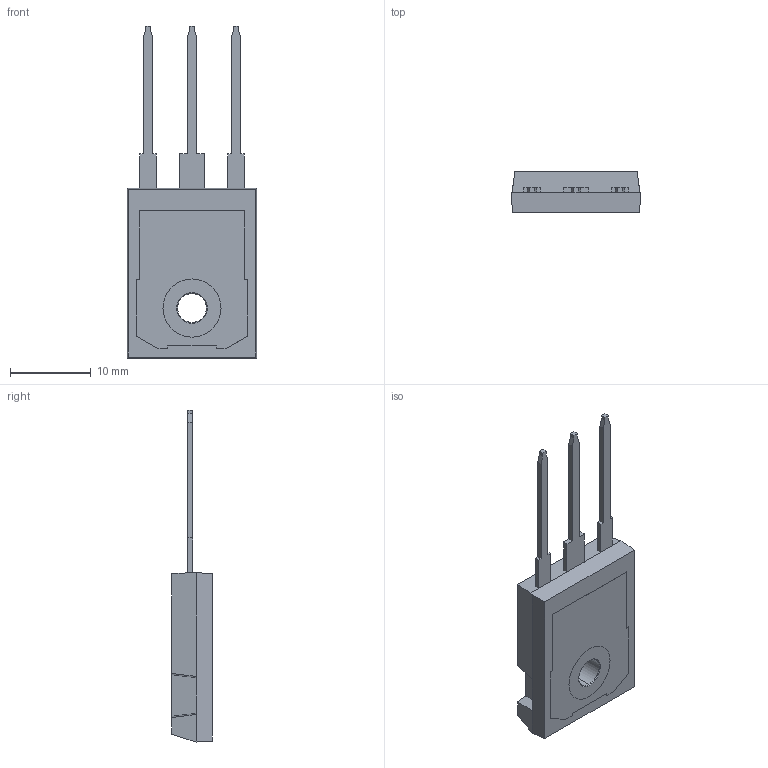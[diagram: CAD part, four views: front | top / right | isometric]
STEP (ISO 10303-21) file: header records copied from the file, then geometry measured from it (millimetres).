
FILE_DESCRIPTION (( 'STEP AP214' ), '1' );
FILE_NAME ('TO-247-3L_D.STEP', '2022-07-25T13:06:44', ( '' ), ( '' ), 'SwSTEP 2.0', 'SolidWorks 2021', '' );
FILE_SCHEMA (( 'AUTOMOTIVE_DESIGN' ));
Length unit declared in the file: millimetre
Products named in the file (3): TO-247-3L_EMC.STEP; TO-247-3L_LF.STEP; TO-247-3L_D
Assembly tree (2 placements, depth 2):
  TO-247-3L_D
    TO-247-3L_LF.STEP
    TO-247-3L_EMC.STEP
Bounding box: 15.94 x 5.02 x 41.02 mm (x, y, z)
Volume: 1588.7 mm3; surface area: 2067.9 mm2
Topology: 4 solids, 4 shells, 127 faces, 346 edges, 226 vertices
Faces by surface type: plane 117, cylinder 8, cone 2
Entity records: 4070 total; most frequent: CARTESIAN_POINT 716, ORIENTED_EDGE 692, DIRECTION 624, EDGE_CURVE 346, VECTOR 324, LINE 324, VERTEX_POINT 226, AXIS2_PLACEMENT_3D 150
